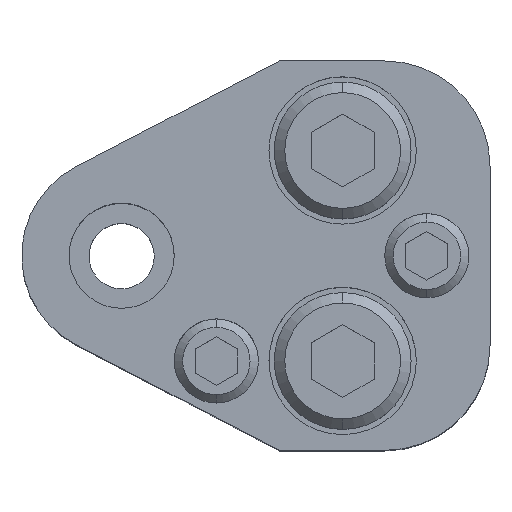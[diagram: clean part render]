
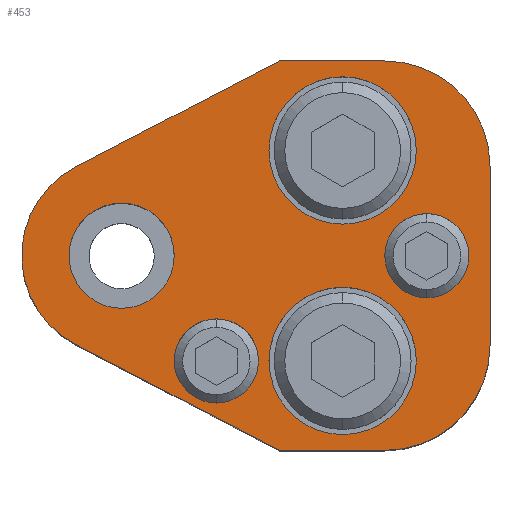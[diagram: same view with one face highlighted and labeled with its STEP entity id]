
A CAD part, top view. The second image highlights one B-rep face of the part: STEP entity #453.
In plain terms, the highlighted planar face has unit normal (0, 0, 1).
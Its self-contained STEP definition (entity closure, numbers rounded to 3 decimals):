
#207=FACE_BOUND('',#813,.T.);
#208=FACE_BOUND('',#814,.T.);
#209=FACE_BOUND('',#815,.T.);
#210=FACE_BOUND('',#816,.T.);
#211=FACE_BOUND('',#817,.T.);
#212=FACE_BOUND('',#818,.T.);
#273=CIRCLE('',#2646,9.5);
#275=CIRCLE('',#2651,10.);
#277=CIRCLE('',#2655,10.);
#279=CIRCLE('',#2660,4.);
#281=CIRCLE('',#2663,4.);
#283=CIRCLE('',#2666,4.);
#285=CIRCLE('',#2669,4.);
#295=CIRCLE('',#2684,7.);
#296=CIRCLE('',#2685,7.);
#297=CIRCLE('',#2686,7.);
#298=CIRCLE('',#2687,7.);
#299=CIRCLE('',#2688,5.);
#300=CIRCLE('',#2689,5.);
#453=ADVANCED_FACE('',(#207,#208,#209,#210,#211,#212),#585,.T.);
#585=PLANE('',#2690);
#813=EDGE_LOOP('',(#1147,#1148,#1149,#1150,#1151,#1152,#1153,#1154));
#814=EDGE_LOOP('',(#1155,#1156));
#815=EDGE_LOOP('',(#1157,#1158));
#816=EDGE_LOOP('',(#1159,#1160));
#817=EDGE_LOOP('',(#1161,#1162));
#818=EDGE_LOOP('',(#1163,#1164));
#1147=ORIENTED_EDGE('',*,*,#1934,.T.);
#1148=ORIENTED_EDGE('',*,*,#1938,.T.);
#1149=ORIENTED_EDGE('',*,*,#1941,.T.);
#1150=ORIENTED_EDGE('',*,*,#1944,.T.);
#1151=ORIENTED_EDGE('',*,*,#1947,.T.);
#1152=ORIENTED_EDGE('',*,*,#1950,.T.);
#1153=ORIENTED_EDGE('',*,*,#1953,.T.);
#1154=ORIENTED_EDGE('',*,*,#1956,.T.);
#1155=ORIENTED_EDGE('',*,*,#1981,.F.);
#1156=ORIENTED_EDGE('',*,*,#1982,.F.);
#1157=ORIENTED_EDGE('',*,*,#1983,.F.);
#1158=ORIENTED_EDGE('',*,*,#1984,.F.);
#1159=ORIENTED_EDGE('',*,*,#1967,.F.);
#1160=ORIENTED_EDGE('',*,*,#1963,.F.);
#1161=ORIENTED_EDGE('',*,*,#1961,.F.);
#1162=ORIENTED_EDGE('',*,*,#1957,.F.);
#1163=ORIENTED_EDGE('',*,*,#1985,.T.);
#1164=ORIENTED_EDGE('',*,*,#1986,.T.);
#1688=VERTEX_POINT('',#3846);
#1689=VERTEX_POINT('',#3848);
#1692=VERTEX_POINT('',#3855);
#1694=VERTEX_POINT('',#3861);
#1696=VERTEX_POINT('',#3867);
#1698=VERTEX_POINT('',#3873);
#1700=VERTEX_POINT('',#3879);
#1702=VERTEX_POINT('',#3885);
#1703=VERTEX_POINT('',#3893);
#1704=VERTEX_POINT('',#3894);
#1707=VERTEX_POINT('',#3905);
#1708=VERTEX_POINT('',#3906);
#1719=VERTEX_POINT('',#3941);
#1720=VERTEX_POINT('',#3942);
#1721=VERTEX_POINT('',#3945);
#1722=VERTEX_POINT('',#3946);
#1723=VERTEX_POINT('',#3949);
#1724=VERTEX_POINT('',#3950);
#1934=EDGE_CURVE('',#1689,#1688,#273,.T.);
#1938=EDGE_CURVE('',#1688,#1692,#2266,.T.);
#1941=EDGE_CURVE('',#1692,#1694,#2269,.T.);
#1944=EDGE_CURVE('',#1694,#1696,#275,.T.);
#1947=EDGE_CURVE('',#1696,#1698,#2273,.T.);
#1950=EDGE_CURVE('',#1698,#1700,#277,.T.);
#1953=EDGE_CURVE('',#1700,#1702,#2277,.T.);
#1956=EDGE_CURVE('',#1702,#1689,#2280,.T.);
#1957=EDGE_CURVE('',#1703,#1704,#279,.T.);
#1961=EDGE_CURVE('',#1704,#1703,#281,.T.);
#1963=EDGE_CURVE('',#1707,#1708,#283,.T.);
#1967=EDGE_CURVE('',#1708,#1707,#285,.T.);
#1981=EDGE_CURVE('',#1719,#1720,#295,.T.);
#1982=EDGE_CURVE('',#1720,#1719,#296,.T.);
#1983=EDGE_CURVE('',#1721,#1722,#297,.T.);
#1984=EDGE_CURVE('',#1722,#1721,#298,.T.);
#1985=EDGE_CURVE('',#1723,#1724,#299,.T.);
#1986=EDGE_CURVE('',#1724,#1723,#300,.T.);
#2266=LINE('',#3856,#2458);
#2269=LINE('',#3862,#2461);
#2273=LINE('',#3874,#2465);
#2277=LINE('',#3886,#2469);
#2280=LINE('',#3890,#2472);
#2458=VECTOR('',#3056,1.);
#2461=VECTOR('',#3061,1.);
#2465=VECTOR('',#3073,1.);
#2469=VECTOR('',#3085,1.);
#2472=VECTOR('',#3090,1.);
#2646=AXIS2_PLACEMENT_3D('',#3847,#3048,#3049);
#2651=AXIS2_PLACEMENT_3D('',#3868,#3066,#3067);
#2655=AXIS2_PLACEMENT_3D('',#3880,#3078,#3079);
#2660=AXIS2_PLACEMENT_3D('',#3892,#3093,#3094);
#2663=AXIS2_PLACEMENT_3D('',#3901,#3101,#3102);
#2666=AXIS2_PLACEMENT_3D('',#3904,#3107,#3108);
#2669=AXIS2_PLACEMENT_3D('',#3913,#3115,#3116);
#2684=AXIS2_PLACEMENT_3D('',#3940,#3149,#3150);
#2685=AXIS2_PLACEMENT_3D('',#3943,#3151,#3152);
#2686=AXIS2_PLACEMENT_3D('',#3944,#3153,#3154);
#2687=AXIS2_PLACEMENT_3D('',#3947,#3155,#3156);
#2688=AXIS2_PLACEMENT_3D('',#3948,#3157,#3158);
#2689=AXIS2_PLACEMENT_3D('',#3951,#3159,#3160);
#2690=AXIS2_PLACEMENT_3D('',#3952,#3161,#3162);
#3048=DIRECTION('',(0.,0.,1.));
#3049=DIRECTION('',(0.,1.,0.));
#3056=DIRECTION('',(0.887,-0.461,0.));
#3061=DIRECTION('',(1.,0.,0.));
#3066=DIRECTION('',(0.,0.,1.));
#3067=DIRECTION('',(-0.707,0.707,0.));
#3073=DIRECTION('',(0.,1.,0.));
#3078=DIRECTION('',(0.,0.,1.));
#3079=DIRECTION('',(-0.707,-0.707,0.));
#3085=DIRECTION('',(-1.,0.,0.));
#3090=DIRECTION('',(-0.887,-0.461,0.));
#3093=DIRECTION('',(0.,0.,1.));
#3094=DIRECTION('',(1.,0.,0.));
#3101=DIRECTION('',(0.,0.,1.));
#3102=DIRECTION('',(-1.,0.,0.));
#3107=DIRECTION('',(0.,0.,1.));
#3108=DIRECTION('',(1.,0.,0.));
#3115=DIRECTION('',(0.,0.,1.));
#3116=DIRECTION('',(-1.,0.,0.));
#3149=DIRECTION('',(0.,0.,1.));
#3150=DIRECTION('',(1.,0.,0.));
#3151=DIRECTION('',(0.,0.,1.));
#3152=DIRECTION('',(-1.,0.,0.));
#3153=DIRECTION('',(0.,0.,1.));
#3154=DIRECTION('',(1.,0.,0.));
#3155=DIRECTION('',(0.,0.,1.));
#3156=DIRECTION('',(-1.,0.,0.));
#3157=DIRECTION('',(0.,0.,-1.));
#3158=DIRECTION('',(-1.,0.,0.));
#3159=DIRECTION('',(0.,0.,-1.));
#3160=DIRECTION('',(1.,0.,0.));
#3161=DIRECTION('',(0.,0.,1.));
#3162=DIRECTION('',(0.887,0.461,0.));
#3846=CARTESIAN_POINT('',(-4.38,-8.43,35.));
#3847=CARTESIAN_POINT('',(0.,0.,35.));
#3848=CARTESIAN_POINT('',(-4.38,8.43,35.));
#3855=CARTESIAN_POINT('',(15.,-18.5,35.));
#3856=CARTESIAN_POINT('',(15.,-18.5,35.));
#3861=CARTESIAN_POINT('',(25.,-18.5,35.));
#3862=CARTESIAN_POINT('',(15.,-18.5,35.));
#3867=CARTESIAN_POINT('',(35.,-8.5,35.));
#3868=CARTESIAN_POINT('',(25.,-8.5,35.));
#3873=CARTESIAN_POINT('',(35.,8.5,35.));
#3874=CARTESIAN_POINT('',(35.,-8.5,35.));
#3879=CARTESIAN_POINT('',(25.,18.5,35.));
#3880=CARTESIAN_POINT('',(25.,8.5,35.));
#3885=CARTESIAN_POINT('',(15.,18.5,35.));
#3886=CARTESIAN_POINT('',(15.,18.5,35.));
#3890=CARTESIAN_POINT('',(15.,18.5,35.));
#3892=CARTESIAN_POINT('',(9.,-10.,35.));
#3893=CARTESIAN_POINT('',(9.,-6.,35.));
#3894=CARTESIAN_POINT('',(9.,-14.,35.));
#3901=CARTESIAN_POINT('',(9.,-10.,35.));
#3904=CARTESIAN_POINT('',(29.,0.,35.));
#3905=CARTESIAN_POINT('',(29.,4.,35.));
#3906=CARTESIAN_POINT('',(29.,-4.,35.));
#3913=CARTESIAN_POINT('',(29.,0.,35.));
#3940=CARTESIAN_POINT('',(21.,-10.,35.));
#3941=CARTESIAN_POINT('',(21.,-3.,35.));
#3942=CARTESIAN_POINT('',(21.,-17.,35.));
#3943=CARTESIAN_POINT('',(21.,-10.,35.));
#3944=CARTESIAN_POINT('',(21.,10.,35.));
#3945=CARTESIAN_POINT('',(21.,17.,35.));
#3946=CARTESIAN_POINT('',(21.,3.,35.));
#3947=CARTESIAN_POINT('',(21.,10.,35.));
#3948=CARTESIAN_POINT('',(0.,0.,35.));
#3949=CARTESIAN_POINT('',(0.,5.,35.));
#3950=CARTESIAN_POINT('',(0.,-5.,35.));
#3951=CARTESIAN_POINT('',(0.,0.,35.));
#3952=CARTESIAN_POINT('',(-4.38,8.43,35.));
